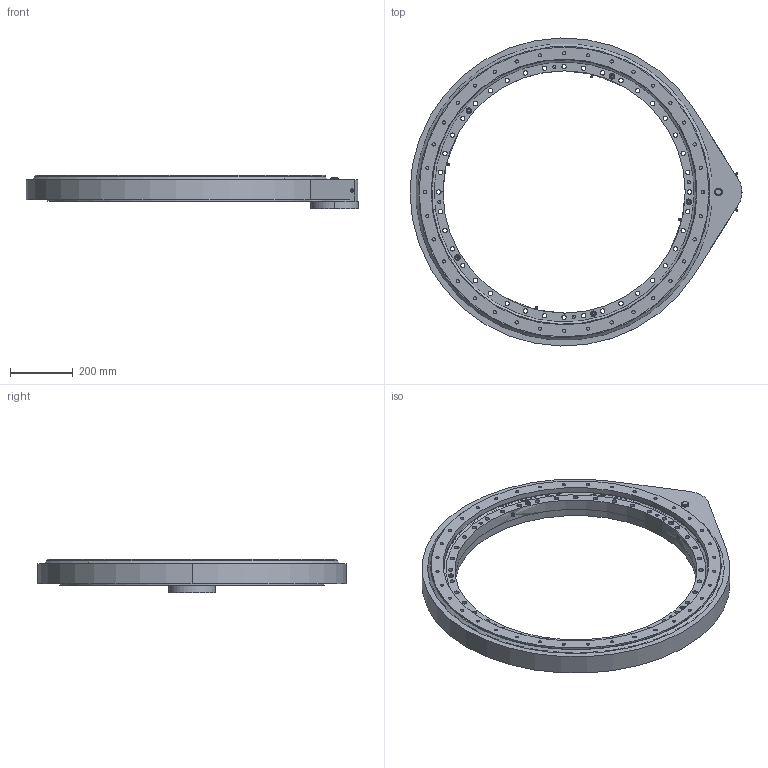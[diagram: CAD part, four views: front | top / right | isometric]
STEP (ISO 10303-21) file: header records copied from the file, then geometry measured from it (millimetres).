
FILE_DESCRIPTION (( 'STEP AP214' ), '1' );
FILE_NAME ('10841.STEP', '2023-03-16T07:07:48', ( '' ), ( '' ), 'SwSTEP 2.0', 'SolidWorks 2021', '' );
FILE_SCHEMA (( 'AUTOMOTIVE_DESIGN' ));
Length unit declared in the file: millimetre
Products named in the file (1): 10841
Bounding box: 1058 x 981.72 x 106.5 mm (x, y, z)
Surface area: 1487054.4 mm2 (no closed solid volume)
Topology: 0 solids, 51 shells, 550 faces, 1674 edges, 1166 vertices
Faces by surface type: cylinder 322, plane 128, torus 54, cone 30, sphere 16
Entity records: 25930 total; most frequent: DIRECTION 3747, CARTESIAN_POINT 3692, ORIENTED_EDGE 2829, EDGE_CURVE 1670, AXIS2_PLACEMENT_3D 1537, VERTEX_POINT 1166, CIRCLE 986, EDGE_LOOP 861
